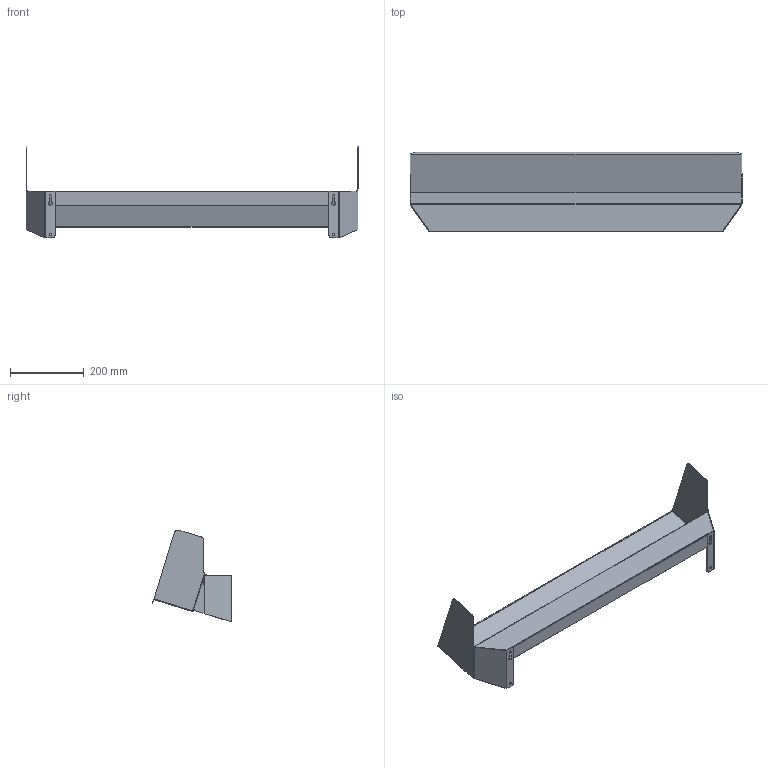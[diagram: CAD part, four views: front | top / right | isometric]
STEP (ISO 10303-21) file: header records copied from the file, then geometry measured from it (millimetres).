
FILE_DESCRIPTION(/* description */ (''),/* implementation_level */ '2;1');
FILE_NAME(/* name */ 'SARMIENTO',/* time_stamp */ '2017-05-31T18:59:56+02:00',/* author */ (''),/* organization */ (''),/* preprocessor_version */ 'ST-DEVELOPER v10',/* originating_system */ '',/* authorisation */ '');
FILE_SCHEMA (('CONFIG_CONTROL_DESIGN'));
Length unit declared in the file: millimetre
Products named in the file (3): 1; 2; 3
Assembly tree (6 placements, depth 2):
  1
    2
    3  x5
Bounding box: 900 x 216.62 x 249.3 mm (x, y, z)
Surface area: 734224.1 mm2 (no closed solid volume)
Topology: 0 solids, 1 shells, 150 faces, 443 edges, 232 vertices
Faces by surface type: bspline 84, plane 66
Entity records: 5144 total; most frequent: CARTESIAN_POINT 2335, ORIENTED_EDGE 792, EDGE_CURVE 443, B_SPLINE_CURVE_WITH_KNOTS 346, VERTEX_POINT 232, EDGE_LOOP 158, ADVANCED_FACE 150, FACE_OUTER_BOUND 150
